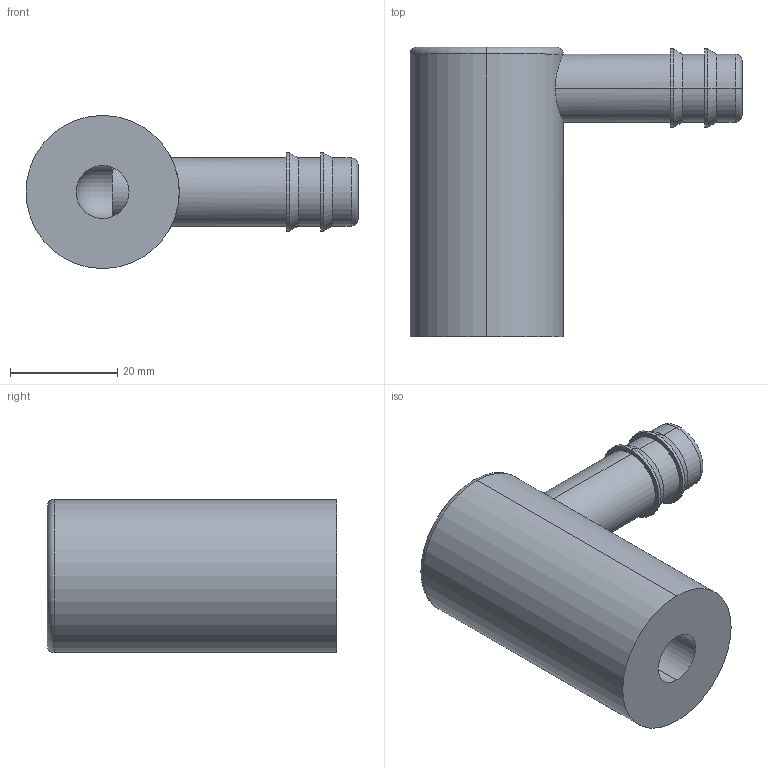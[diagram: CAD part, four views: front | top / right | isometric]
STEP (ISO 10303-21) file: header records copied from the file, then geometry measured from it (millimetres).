
FILE_DESCRIPTION (( 'STEP AP203' ), '1' );
FILE_NAME ('WJ500-8.step', '2014-10-03T00:26:39', ( '' ), ( '' ), 'SwSTEP 2.0', 'SolidWorks 2009', '' );
FILE_SCHEMA (( 'CONFIG_CONTROL_DESIGN' ));
Length unit declared in the file: inch
Products named in the file (1): WJ500-8
Bounding box: 61.91 x 53.98 x 28.57 mm (x, y, z)
Volume: 31840.6 mm3; surface area: 10343.3 mm2
Topology: 1 solids, 1 shells, 30 faces, 63 edges, 37 vertices
Faces by surface type: cylinder 16, torus 5, plane 5, cone 4
Entity records: 963 total; most frequent: CARTESIAN_POINT 215, DIRECTION 160, ORIENTED_EDGE 124, AXIS2_PLACEMENT_3D 70, EDGE_CURVE 62, CIRCLE 39, VERTEX_POINT 37, EDGE_LOOP 35
